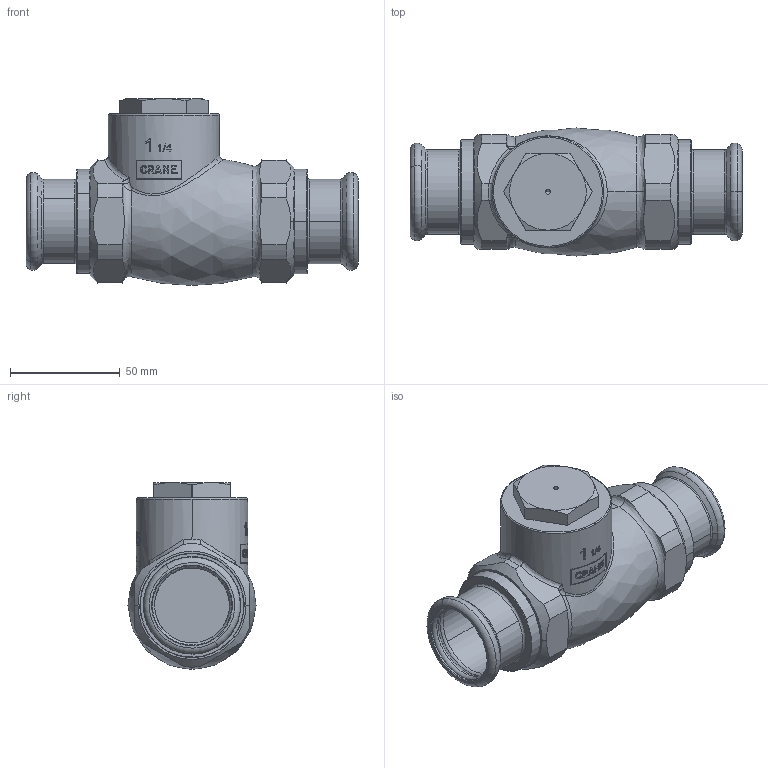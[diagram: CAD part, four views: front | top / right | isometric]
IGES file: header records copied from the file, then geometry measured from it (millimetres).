
Global section: file name: No Iges File Name specified; native system: AutoDesk Inventor R12.0; preprocessor: AutoDesk Inventor Iges Exporter R12.0; date: 20110823.122643; units: millimetre
Bounding box: 151.4 x 58.4 x 85.2 mm (x, y, z)
Volume: 252398.9 mm3; surface area: 59573.3 mm2
Topology: 3 solids, 6 shells, 531 faces, 1443 edges, 945 vertices
Faces by surface type: bspline 235, plane 137, cylinder 54, revolution 46, cone 36, torus 22, sphere 1
